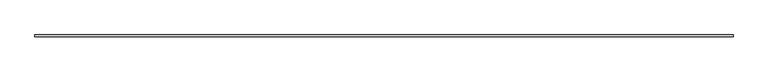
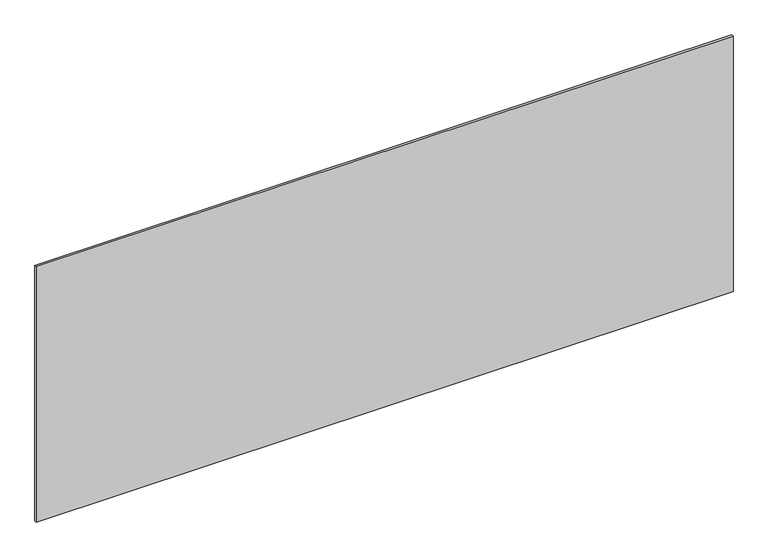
"""IFC4 building model written with IfcOpenShell, lengths in millimetres: plate geometry, システム パネル : 標準."""

from ifc_helpers import new_model, si_unit, origin, origin_with_axes, place, context, project, spatial, polyline, outline, extrude, source, transform, mapped, element, save


def plate_ff207d9e(model_context):
    return source(origin(), model_context, "Body", "SweptSolid", [
        extrude(outline(polyline([(1715.0, -5.0), (-1715.0, -5.0), (-1715.0, 5.0), (1715.0, 5.0), (1715.0, -5.0)])), origin_with_axes(), (0.0, 0.0, 1.0), 1330.1743306),
    ])


if __name__ == "__main__":
    model = new_model("IFC4")
    model_context = context("Model", 3, world=origin())
    ifc_project = project(units=[si_unit("LENGTHUNIT", "METRE", prefix="MILLI")], contexts=[model_context])
    site = spatial("IfcSite", under=ifc_project)
    building = spatial("IfcBuilding", under=site)
    placement = place(None, origin())
    plate_shape = plate_ff207d9e(model_context)
    element("IfcPlate", 1, ObjectType="システム パネル : 標準", at=placement, inside=building, context=model_context, shape_type="MappedRepresentation", body=[
        mapped(plate_shape, transform((0.0, 0.0, 0.0), x_axis=(1.0, 0.0, 0.0), y_axis=(0.0, 1.0, 0.0), z_axis=(0.0, 0.0, 1.0))),
    ])
    save(model, "model.ifc")
